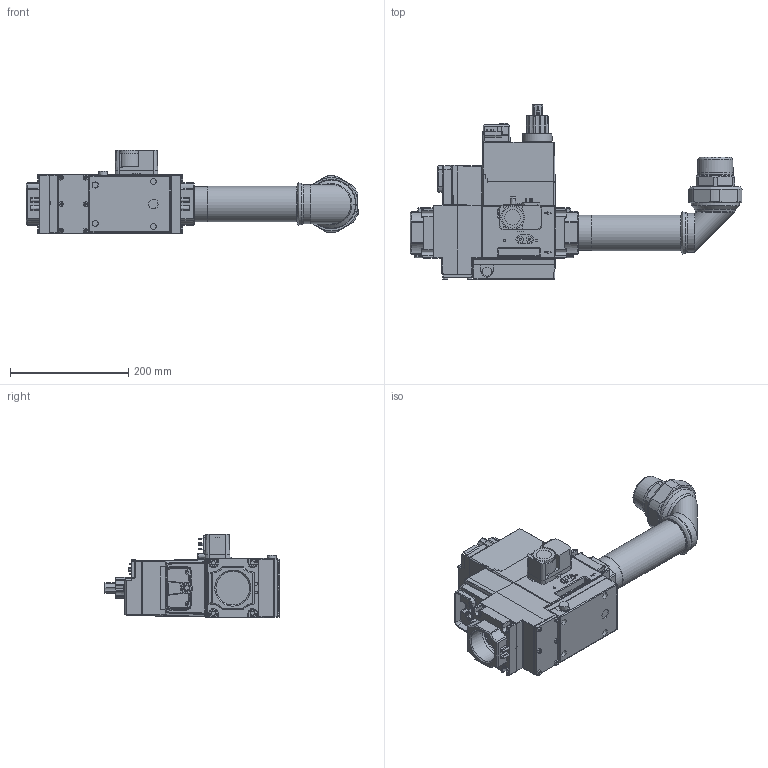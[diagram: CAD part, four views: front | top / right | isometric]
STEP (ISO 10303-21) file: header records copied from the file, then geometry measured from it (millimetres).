
FILE_DESCRIPTION (( 'STEP AP214' ), '1' );
FILE_NAME ('19990559.STEP', '2023-08-28T12:34:18', ( '' ), ( '' ), 'SwSTEP 2.0', 'SolidWorks 2021', '' );
FILE_SCHEMA (( 'AUTOMOTIVE_DESIGN' ));
Length unit declared in the file: millimetre
Products named in the file (8): 19990559; 0005090214-112485_TRA V1 E V2; 30506-102399; 0005090214-112486-AUTO; 0005090115-102402; 0005040038-03745; 0005180006-102398; 34871-103255
Assembly tree (8 placements, depth 3):
  19990559
    0005090214-112485_TRA V1 E V2
      0005090214-112486-AUTO
      0005040038-03745
    30506-102399
    0005180006-102398
    34871-103255
    0005090115-102402  x2
Bounding box: 560.7 x 296 x 141.58 mm (x, y, z)
Volume: 4982097.2 mm3; surface area: 509634.2 mm2
Topology: 10 solids, 10 shells, 2470 faces, 6205 edges, 3853 vertices
Faces by surface type: plane 927, cylinder 708, bspline 661, torus 98, cone 48, sphere 28
Full cylindrical faces by diameter (mm): 0.7 x2, 1.5 x4, 2 x1, 2.5 x8, 3.7 x3, 4 x4, 6.647 x8, 6.75 x2, 6.917 x8, 8 x3, 8.5 x6, 8.57 x1, 9 x1, 10 x3, 10.5 x6, 10.6 x1, 10.96 x2, 11 x7, 15 x3, 15.2 x1, 15.3 x1, 26 x1, 36.15 x1, 50 x1, 53 x1, 56.656 x1, 57 x2, 59.614 x2, 60.3 x1, 60.5 x1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
Entity records: 140177 total; most frequent: CARTESIAN_POINT 69314, ORIENTED_EDGE 11054, DIRECTION 7771, EDGE_CURVE 5527, VERTEX_POINT 3544, EDGE_LOOP 2695, AXIS2_PLACEMENT_3D 2644, VECTOR 2483
